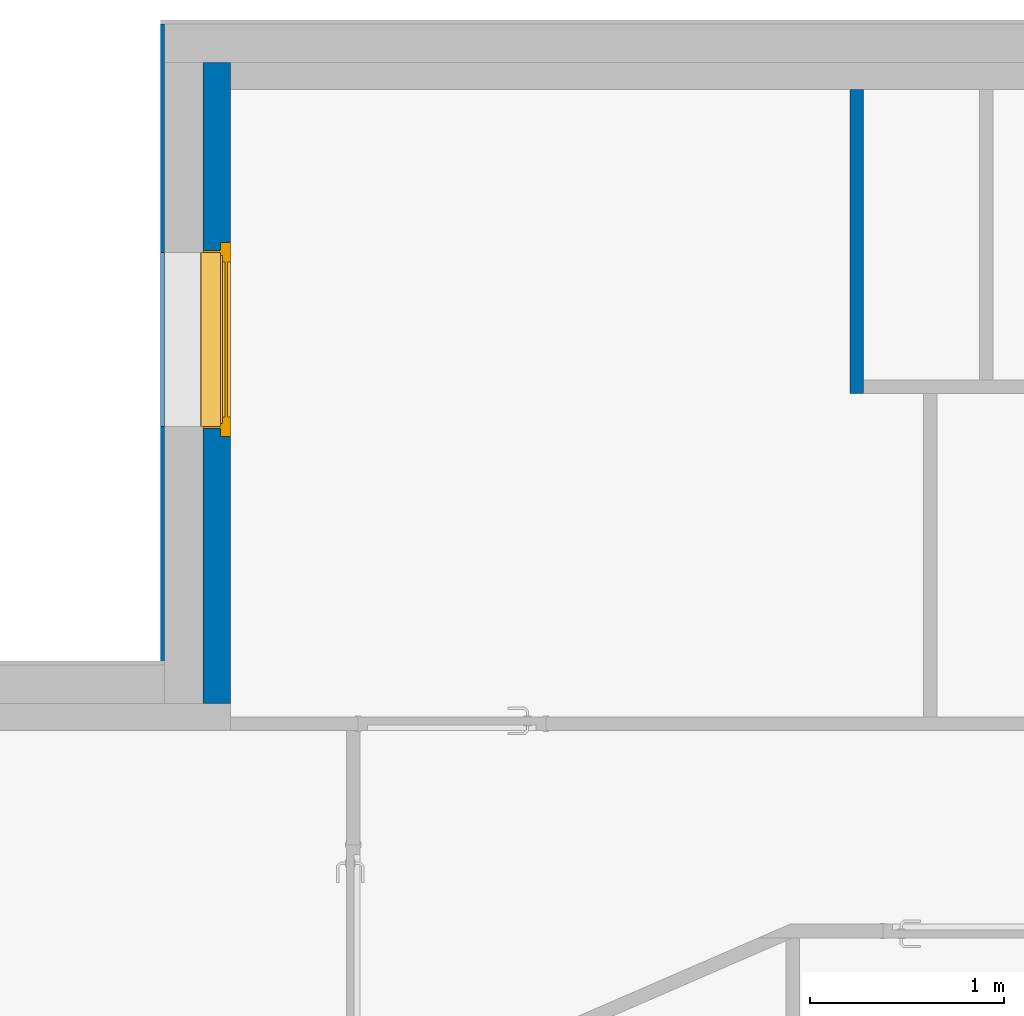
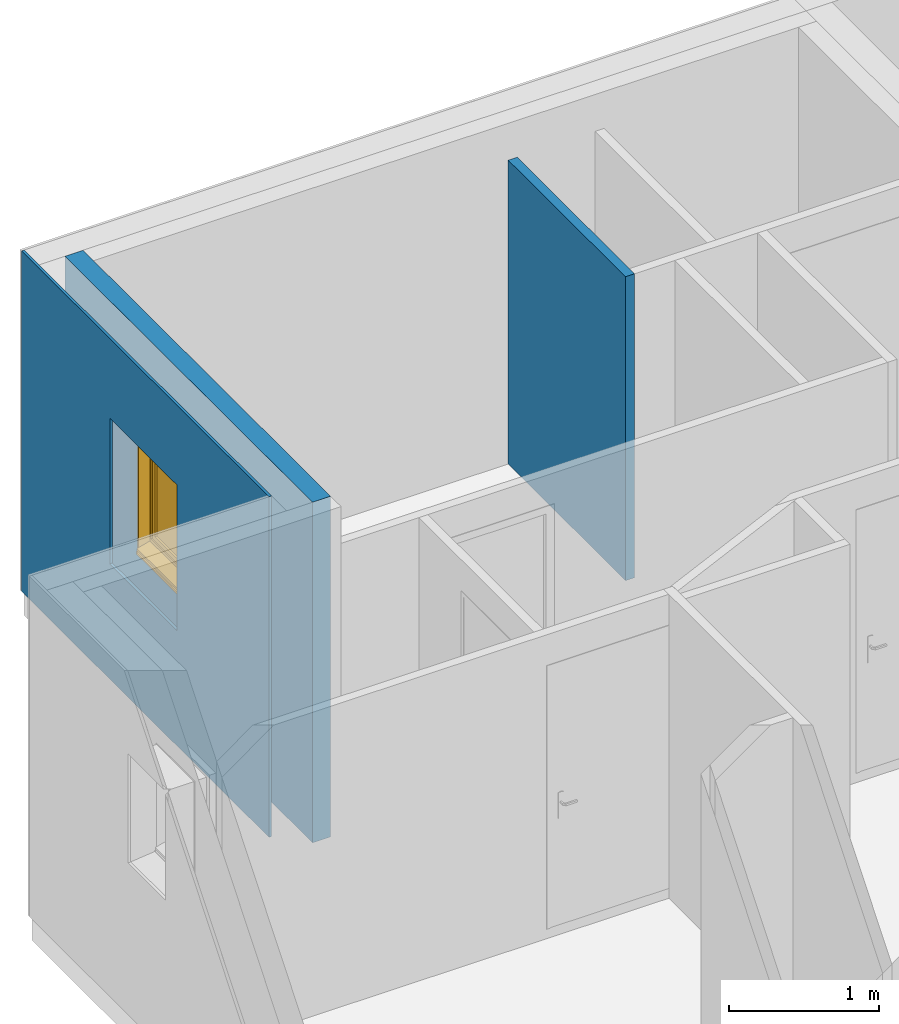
"""IFC2X3 building model written with IfcOpenShell, lengths in centimetres."""

from ifc_helpers import new_model, entity, si_unit, converted_unit, derived_unit, direction, frame, frame_2d, origin, place, context, subcontext, project, spatial, rectangle, extrude, faceted_brep, source, transform, mapped, material, material_list, layer, layer_set, layer_usage, type_object, type_shapes, element, fill, save


model = new_model("IFC2X3")

# Units and contexts
model_context = context("Model", 3, precision=0.001, world=origin(), true_north=direction((6.123031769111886e-17, 1.0)))
body_context = subcontext(model_context, "Body", "Model", "MODEL_VIEW")
ifc_project = project(units=[si_unit("LENGTHUNIT", "METRE", prefix="CENTI"), si_unit("AREAUNIT", "SQUARE_METRE"), si_unit("VOLUMEUNIT", "CUBIC_METRE"), converted_unit("PLANEANGLEUNIT", "DEGREE", entity("IfcRatioMeasure", 0.017453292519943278), si_unit("PLANEANGLEUNIT", "RADIAN"), dimensions=[0, 0, 0, 0, 0, 0, 0]), si_unit("MASSUNIT", "GRAM", prefix="KILO"), derived_unit("MASSDENSITYUNIT", [(si_unit("MASSUNIT", "GRAM", prefix="KILO"), 1), (si_unit("LENGTHUNIT", "METRE"), -3)]), derived_unit("MOMENTOFINERTIAUNIT", [(si_unit("LENGTHUNIT", "METRE"), 4)]), si_unit("TIMEUNIT", "SECOND"), si_unit("FREQUENCYUNIT", "HERTZ"), si_unit("THERMODYNAMICTEMPERATUREUNIT", "DEGREE_CELSIUS"), derived_unit("THERMALTRANSMITTANCEUNIT", [(si_unit("MASSUNIT", "GRAM", prefix="KILO"), 1), (si_unit("THERMODYNAMICTEMPERATUREUNIT", "KELVIN"), -1), (si_unit("TIMEUNIT", "SECOND"), -3)]), derived_unit("VOLUMETRICFLOWRATEUNIT", [(si_unit("LENGTHUNIT", "METRE"), 3), (si_unit("TIMEUNIT", "SECOND"), -1)]), derived_unit("MASSFLOWRATEUNIT", [(si_unit("MASSUNIT", "GRAM", prefix="KILO"), 1), (si_unit("TIMEUNIT", "SECOND"), -1)]), derived_unit("ROTATIONALFREQUENCYUNIT", [(si_unit("TIMEUNIT", "SECOND"), -1)]), si_unit("ELECTRICCURRENTUNIT", "AMPERE"), si_unit("ELECTRICVOLTAGEUNIT", "VOLT"), si_unit("POWERUNIT", "WATT"), si_unit("FORCEUNIT", "NEWTON", prefix="KILO"), si_unit("ILLUMINANCEUNIT", "LUX"), si_unit("LUMINOUSFLUXUNIT", "LUMEN"), si_unit("LUMINOUSINTENSITYUNIT", "CANDELA"), derived_unit("USERDEFINED", [(si_unit("MASSUNIT", "GRAM", prefix="KILO"), -1), (si_unit("LENGTHUNIT", "METRE"), -2), (si_unit("TIMEUNIT", "SECOND"), 3), (si_unit("LUMINOUSFLUXUNIT", "LUMEN"), 1)]), derived_unit("SOUNDPOWERUNIT", [(si_unit("MASSUNIT", "GRAM", prefix="KILO"), 1), (si_unit("LENGTHUNIT", "METRE"), 2), (si_unit("TIMEUNIT", "SECOND"), -3)]), derived_unit("SOUNDPRESSUREUNIT", [(si_unit("MASSUNIT", "GRAM", prefix="KILO"), 1), (si_unit("LENGTHUNIT", "METRE"), -1), (si_unit("TIMEUNIT", "SECOND"), -2)]), derived_unit("LINEARVELOCITYUNIT", [(si_unit("LENGTHUNIT", "METRE"), 1), (si_unit("TIMEUNIT", "SECOND"), -1)]), si_unit("PRESSUREUNIT", "PASCAL"), derived_unit("USERDEFINED", [(si_unit("LENGTHUNIT", "METRE"), -2), (si_unit("MASSUNIT", "GRAM", prefix="KILO"), 1), (si_unit("TIMEUNIT", "SECOND"), -2)]), derived_unit("LINEARFORCEUNIT", [(si_unit("MASSUNIT", "GRAM", prefix="KILO"), 1), (si_unit("LENGTHUNIT", "METRE"), 1), (si_unit("TIMEUNIT", "SECOND"), -2), (si_unit("LENGTHUNIT", "METRE"), -1)]), derived_unit("PLANARFORCEUNIT", [(si_unit("MASSUNIT", "GRAM", prefix="KILO"), 1), (si_unit("LENGTHUNIT", "METRE"), 1), (si_unit("TIMEUNIT", "SECOND"), -2), (si_unit("LENGTHUNIT", "METRE"), -2)])], contexts=[model_context])

# Site, building, storey
site_placement = place(None, origin())
site = spatial("IfcSite", under=ifc_project, at=site_placement, Name="Default", CompositionType="ELEMENT")
building_placement = place(site_placement, origin())
building = spatial("IfcBuilding", under=site, at=building_placement, CompositionType="ELEMENT")
storey_1_placement = place(building_placement, frame((0.0, 0.0, -8.0)))
storey_1 = spatial("IfcBuildingStorey", under=building, at=storey_1_placement, Name="-0.08_Dessus plancher", CompositionType="ELEMENT", Elevation=-8.000000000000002)

# Wall, opening
ifc_material_1 = material(Name="Maçonnerie - Enduit")
ifc_layer_1 = layer(ifc_material_1, 2.0)
ifc_layer_set_1 = layer_set([ifc_layer_1], Name="Mur de base:Enduit 2")
ifc_layer_usage_1 = layer_usage(ifc_layer_set_1, "AXIS2", "POSITIVE", -1.0)
wall_type_1 = type_object("IfcWallType", Name="Mur de base:Enduit 2", PredefinedType="STANDARD", material=ifc_layer_set_1)
wall_1_placement = place(storey_1_placement, frame((-1447.8253630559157, 931.6042960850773, 0.0), z_axis=(0.0, 0.0, 1.0), x_axis=(0.0, -1.0, 0.0)))
wall_1 = element("IfcWallStandardCase", 1, at=wall_1_placement, inside=storey_1, type_object=wall_type_1, material=ifc_layer_usage_1, Name="Mur de base:Enduit 2", ObjectType="Mur de base:Enduit 2", context=body_context, shape_type="SweptSolid", body=[
    extrude(rectangle(XDim=330.9999999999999, YDim=1.9999999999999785, at=frame_2d((165.49999999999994, 0.0), x_axis=(-1.0, 0.0))), origin(), (0.0, 0.0, 1.0), 278.00000000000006),
])
opening_1_placement = place(wall_1_placement, frame((213.0, -22.0, 91.77030941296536)))
element("IfcOpeningElement", 2, at=opening_1_placement, cuts=wall_1, Name="Mur de base:Enduit 2", ObjectType="Opening", context=body_context, shape_type="Brep", body=[
    faceted_brep([(-5.0, 45.0, 6.229690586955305), (-5.0, 43.0, 6.229690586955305), (-5.0, 43.0, 121.22969058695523), (-5.0, 0.0, 121.22969058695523), (-5.0, 0.0, 0.0), (-5.0, 45.0, 4.729690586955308), (-95.0, 100.0, 6.229690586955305), (-95.0, 57.0, 6.229690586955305), (-95.0, 57.0, 121.22969058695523), (-95.0, 100.0, 121.22969058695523), (-5.0, 100.0, 6.229690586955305), (-5.0, 57.0, 6.229690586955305), (0.0, 57.0, 6.229690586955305), (0.0, 52.0, 6.229690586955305), (-4.0, 52.0, 6.229690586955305), (-4.0, 43.0, 6.229690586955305), (-95.0, 45.0, 6.229690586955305), (-95.0, 43.0, 6.229690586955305), (-96.0, 43.0, 6.229690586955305), (-96.0, 52.0, 6.229690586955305), (-100.0, 52.0, 6.229690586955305), (-100.0, 57.0, 6.229690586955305), (-5.0, 100.0, 121.22969058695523), (-95.0, 43.0, 121.22969058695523), (-95.0, 0.0, 121.22969058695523), (-95.0, 0.0, 0.0), (-95.0, 45.0, 4.729690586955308), (0.0, 57.0, 126.2296905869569), (0.0, 52.0, 126.2296905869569), (-100.0, 52.0, 126.2296905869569), (-96.0, 52.0, 122.22969058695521), (-4.0, 52.0, 122.22969058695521), (-4.0, 43.0, 122.22969058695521), (-96.0, 43.0, 122.22969058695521), (-5.0, 57.0, 121.22969058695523), (-100.0, 57.0, 126.2296905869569)], [[[0, 1, 2, 3, 4, 5]], [[6, 7, 8, 9]], [[10, 11, 12, 13, 14, 15, 1, 0, 16, 17, 18, 19, 20, 21, 7, 6]], [[10, 6, 9, 22]], [[3, 2, 23, 24]], [[3, 24, 25, 4]], [[4, 25, 26, 5]], [[5, 26, 16, 0]], [[12, 27, 28, 13]], [[13, 28, 29, 20, 19, 30, 31, 14]], [[14, 31, 32, 15]], [[15, 32, 33, 18, 17, 23, 2, 1]], [[11, 34, 8, 7, 21, 35, 27, 12]], [[27, 35, 29, 28]], [[30, 33, 32, 31]], [[29, 35, 21, 20]], [[19, 18, 33, 30]], [[9, 8, 34, 22]], [[24, 23, 17, 16, 26, 25]], [[22, 34, 11, 10]]]),
])

ifc_material_2 = material(Name="Isolant rigide")
ifc_layer_2 = layer(ifc_material_2, 14.0)
ifc_layer_set_2 = layer_set([ifc_layer_2], Name="Mur de base:Doublage 14")
ifc_layer_usage_2 = layer_usage(ifc_layer_set_2, "AXIS2", "NEGATIVE", 7.0)
wall_type_2 = type_object("IfcWallType", Name="Mur de base:Doublage 14", PredefinedType="STANDARD", material=ifc_layer_set_2)
wall_2_placement = place(storey_1_placement, frame((-1419.8253630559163, 580.6042960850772, 0.0), z_axis=(0.0, 0.0, 1.0), x_axis=(0.0, 1.0, 0.0)))
wall_2 = element("IfcWallStandardCase", 3, at=wall_2_placement, inside=storey_1, type_object=wall_type_2, material=ifc_layer_usage_2, Name="Mur de base:Doublage 14", ObjectType="Mur de base:Doublage 14", context=body_context, shape_type="SweptSolid", body=[
    extrude(rectangle(XDim=331.0, YDim=14.000000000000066, at=frame_2d((165.5, -1.0835776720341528e-13), x_axis=(-1.0, 0.0))), origin(), (0.0, 0.0, 1.0), 278.00000000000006),
])
opening_2_placement = place(wall_2_placement, frame((138.0, 50.0, 91.77030941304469), z_axis=(0.0, 0.0, 1.0), x_axis=(0.0, -1.0, 0.0)))
opening_2 = element("IfcOpeningElement", 4, at=opening_2_placement, cuts=wall_2, Name="Mur de base:Doublage 14", ObjectType="Opening", context=body_context, shape_type="Brep", body=[
    faceted_brep([(45.0, 5.0, 6.2296905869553), (43.0, 5.0, 6.2296905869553), (43.0, 5.0, 121.22969058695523), (0.0, 5.0, 121.22969058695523), (0.0, 5.0, 0.0), (45.0, 5.0, 4.729690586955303), (100.0, 95.0, 6.2296905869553), (57.0, 95.0, 6.2296905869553), (57.0, 95.0, 121.22969058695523), (100.0, 95.0, 121.22969058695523), (100.0, 5.0, 6.2296905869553), (57.0, 5.0, 6.2296905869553), (57.0, 0.0, 6.2296905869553), (52.0, 0.0, 6.2296905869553), (52.0, 4.0, 6.2296905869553), (43.0, 4.0, 6.2296905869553), (45.0, 95.0, 6.2296905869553), (43.0, 95.0, 6.2296905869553), (43.0, 96.0, 6.2296905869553), (52.0, 96.0, 6.2296905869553), (52.0, 100.0, 6.2296905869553), (57.0, 100.0, 6.2296905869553), (100.0, 5.0, 121.22969058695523), (43.0, 95.0, 121.22969058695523), (0.0, 95.0, 121.22969058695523), (0.0, 95.0, 0.0), (45.0, 95.0, 4.729690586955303), (57.0, 0.0, 126.2296905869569), (52.0, 0.0, 126.2296905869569), (52.0, 100.0, 126.2296905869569), (52.0, 96.0, 122.22969058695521), (52.0, 4.0, 122.22969058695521), (43.0, 4.0, 122.22969058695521), (43.0, 96.0, 122.22969058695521), (57.0, 5.0, 121.22969058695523), (57.0, 100.0, 126.2296905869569)], [[[0, 1, 2, 3, 4, 5]], [[6, 7, 8, 9]], [[10, 11, 12, 13, 14, 15, 1, 0, 16, 17, 18, 19, 20, 21, 7, 6]], [[10, 6, 9, 22]], [[3, 2, 23, 24]], [[3, 24, 25, 4]], [[4, 25, 26, 5]], [[5, 26, 16, 0]], [[12, 27, 28, 13]], [[13, 28, 29, 20, 19, 30, 31, 14]], [[14, 31, 32, 15]], [[15, 32, 33, 18, 17, 23, 2, 1]], [[11, 34, 8, 7, 21, 35, 27, 12]], [[27, 35, 29, 28]], [[30, 33, 32, 31]], [[29, 35, 21, 20]], [[19, 18, 33, 30]], [[9, 8, 34, 22]], [[24, 23, 17, 16, 26, 25]], [[22, 34, 11, 10]]]),
])

# Storey
storey_2_placement = place(building_placement, origin())
storey_2 = spatial("IfcBuildingStorey", under=building, at=storey_2_placement, Name="1_Rez-de-chaussée", CompositionType="ELEMENT", Elevation=-7.93413063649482e-11)

# Window
ifc_material_3 = material(Name="Fenêtre - Poignée")
ifc_material_4 = material(Name="Fenêtre - Appui")
ifc_material_5 = material(Name="Fenêtre - Vitrage")
ifc_material_6 = material(Name="Fenêtre - Cadre")
ifc_material_list_1 = material_list([ifc_material_3, ifc_material_3, ifc_material_4, ifc_material_4, ifc_material_4, ifc_material_5, ifc_material_6, ifc_material_6, ifc_material_6])
ifc_material_list_2 = material_list([ifc_material_3, ifc_material_3, ifc_material_4, ifc_material_4, ifc_material_4, ifc_material_5, ifc_material_6, ifc_material_6, ifc_material_6])
window_style = type_object("IfcWindowStyle", Name="1 Vantail - Droit:0.90 m x 1.15 m", ConstructionType="NOTDEFINED", OperationType="NOTDEFINED", ParameterTakesPrecedence=False, Sizeable=False, material=ifc_material_list_2)
shared_shape = source(origin(), body_context, "Body", "Brep", [
    faceted_brep([(8.064600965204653, -57.600000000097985, 68.43308351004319), (8.203392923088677, -57.600000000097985, 68.29429155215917), (8.203392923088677, -57.600000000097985, 67.16292070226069), (8.066769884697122, -57.600000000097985, 67.02629766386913), (6.933230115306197, -57.600000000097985, 67.02629766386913), (6.796607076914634, -57.600000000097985, 67.16292070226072), (6.796607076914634, -57.600000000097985, 68.29429155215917), (6.935399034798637, -57.600000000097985, 68.43308351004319), (8.064600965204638, -58.891354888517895, 68.43308351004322), (8.203392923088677, -58.833865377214, 68.29429155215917), (8.203392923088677, -60.16460096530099, 66.9635559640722), (8.203392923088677, -60.16460096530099, 58.22969058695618), (8.203392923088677, -59.03323011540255, 58.22969058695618), (8.203392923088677, -59.033230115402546, 66.49492681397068), (8.203392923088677, -58.36523622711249, 67.16292070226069), (8.066769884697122, -58.308645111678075, 67.02629766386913), (6.933230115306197, -58.308645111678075, 67.02629766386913), (6.796607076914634, -58.3652362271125, 67.16292070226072), (6.796607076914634, -59.03323011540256, 66.49492681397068), (6.796607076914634, -59.03323011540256, 58.22969058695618), (6.796607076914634, -60.164600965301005, 58.22969058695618), (6.796607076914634, -60.164600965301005, 66.9635559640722), (6.796607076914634, -58.833865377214, 68.29429155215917), (6.935399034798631, -58.89135488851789, 68.43308351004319), (8.064600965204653, -60.30339292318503, 67.02104547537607), (8.066769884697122, -58.896607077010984, 66.43833569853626), (6.933230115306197, -58.89660707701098, 66.43833569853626), (6.935399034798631, -60.30339292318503, 67.02104547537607), (8.064600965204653, -60.30339292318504, 58.22969058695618), (6.935399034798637, -60.30339292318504, 58.22969058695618), (6.933230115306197, -58.896607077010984, 58.22969058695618), (8.066769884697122, -58.896607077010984, 58.22969058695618)], [[[0, 1, 2, 3, 4, 5, 6, 7]], [[1, 0, 8, 9]], [[2, 1, 9, 10, 11, 12, 13, 14]], [[3, 2, 14, 15]], [[4, 3, 15, 16]], [[5, 4, 16, 17]], [[6, 5, 17, 18, 19, 20, 21, 22]], [[7, 6, 22, 23]], [[0, 7, 23, 8]], [[9, 8, 24, 10]], [[15, 14, 13, 25]], [[16, 15, 25, 26]], [[17, 16, 26, 18]], [[23, 22, 21, 27]], [[8, 23, 27, 24]], [[28, 29, 20, 19, 30, 31, 12, 11]], [[10, 24, 28, 11]], [[25, 13, 12, 31]], [[26, 25, 31, 30]], [[18, 26, 30, 19]], [[27, 21, 20, 29]], [[24, 27, 29, 28]]]),
    faceted_brep([(8.200000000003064, -57.60000000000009, 70.22969058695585), (6.80000000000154, -57.60000000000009, 70.22969058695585), (6.300000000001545, -57.60000000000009, 69.72969058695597), (6.300000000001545, -57.60000000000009, 62.72969058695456), (6.8000000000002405, -57.60000000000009, 62.22969058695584), (8.200000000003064, -57.60000000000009, 62.22969058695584), (8.70000000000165, -57.60000000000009, 62.72969058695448), (8.70000000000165, -57.60000000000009, 69.72969058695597), (8.200000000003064, -57.0, 70.22969058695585), (8.70000000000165, -57.0, 69.72969058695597), (8.70000000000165, -57.0, 62.72969058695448), (8.200000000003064, -57.0, 62.22969058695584), (6.8000000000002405, -57.0, 62.22969058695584), (6.300000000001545, -57.0, 62.72969058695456), (6.300000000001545, -57.0, 69.72969058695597), (6.80000000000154, -57.0, 70.22969058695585)], [[[0, 1, 2, 3, 4, 5, 6, 7]], [[8, 9, 10, 11, 12, 13, 14, 15]], [[1, 0, 8, 15]], [[2, 1, 15, 14]], [[3, 2, 14, 13]], [[4, 3, 13, 12]], [[5, 4, 12, 11]], [[6, 5, 11, 10]], [[7, 6, 10, 9]], [[0, 7, 9, 8]]]),
    faceted_brep([(95.0, -41.49999999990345, 4.887346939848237), (95.0, -44.499999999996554, 5.202659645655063), (95.0, -44.499999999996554, 6.229690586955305), (95.0, -45.0, 6.229690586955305), (95.0, -45.0, 4.729690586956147), (95.0, -42.0, 4.4143778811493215), (95.0, -42.0, 3.384327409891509), (95.0, -41.49999999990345, 3.331775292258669), (5.0, -41.49999999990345, 4.887346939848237), (5.0, -41.49999999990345, 3.331775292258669), (5.0, -42.0, 3.384327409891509), (5.0, -42.0, 4.4143778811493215), (5.0, -45.0, 4.729690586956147), (5.0, -45.0, 6.229690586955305), (5.0, -44.49999999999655, 6.229690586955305), (5.0, -44.49999999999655, 5.202659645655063)], [[[0, 1, 2, 3, 4, 5, 6, 7]], [[8, 9, 10, 11, 12, 13, 14, 15]], [[1, 0, 8, 15]], [[2, 1, 15, 14]], [[3, 2, 14, 13]], [[4, 3, 13, 12]], [[5, 4, 12, 11]], [[6, 5, 11, 10]], [[7, 6, 10, 9]], [[0, 7, 9, 8]]]),
    faceted_brep([(5.0, -41.49999999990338, 5.029939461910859), (5.0, -41.49999999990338, 4.887346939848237), (5.0, -44.499999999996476, 5.202659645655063), (5.0, -44.499999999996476, 5.7054137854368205), (5.0, -41.85818861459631, 5.427748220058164), (5.0, -41.60274206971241, 5.2975917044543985), (5.500000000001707, -44.49999999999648, 5.7054137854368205), (5.500000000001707, -44.49999999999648, 5.202659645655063), (5.500000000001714, -41.49999999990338, 4.887346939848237), (5.500000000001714, -41.49999999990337, 5.029939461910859), (5.500000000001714, -41.60274206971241, 5.2975917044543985), (5.500000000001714, -41.85818861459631, 5.427748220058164)], [[[0, 1, 2, 3, 4, 5]], [[6, 7, 8, 9, 10, 11]], [[2, 1, 8, 7]], [[3, 2, 7, 6]], [[4, 3, 6, 11]], [[4, 11, 10, 5]], [[10, 9, 0, 5]], [[1, 0, 9, 8]]]),
    faceted_brep([(94.5000000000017, -41.49999999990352, 5.029939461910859), (94.5000000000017, -41.49999999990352, 4.887346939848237), (94.50000000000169, -44.499999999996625, 5.202659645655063), (94.50000000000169, -44.499999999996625, 5.7054137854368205), (94.5000000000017, -41.85818861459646, 5.427748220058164), (94.5000000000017, -41.60274206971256, 5.2975917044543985), (95.0, -44.499999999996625, 5.7054137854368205), (95.0, -44.499999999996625, 5.202659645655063), (95.0, -41.49999999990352, 4.887346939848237), (95.0, -41.499999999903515, 5.029939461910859), (95.0, -41.60274206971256, 5.2975917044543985), (95.0, -41.85818861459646, 5.427748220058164)], [[[0, 1, 2, 3, 4, 5]], [[6, 7, 8, 9, 10, 11]], [[2, 1, 8, 7]], [[3, 2, 7, 6]], [[4, 3, 6, 11]], [[4, 11, 10, 5]], [[10, 9, 0, 5]], [[1, 0, 9, 8]]]),
    faceted_brep([(10.0, -54.400000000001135, 16.229690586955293), (10.0, -54.400000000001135, 116.22969058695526), (90.0, -54.400000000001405, 116.22969058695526), (90.0, -54.400000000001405, 16.229690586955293), (10.0, -55.60000000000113, 16.229690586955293), (10.0, -55.60000000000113, 116.22969058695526), (90.0, -55.60000000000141, 116.22969058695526), (90.0, -55.60000000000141, 16.229690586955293)], [[[0, 1, 2, 3]], [[1, 0, 4, 5]], [[3, 2, 6, 7]], [[0, 3, 7, 4]], [[4, 7, 6, 5]], [[2, 1, 5, 6]]]),
    faceted_brep([(10.0, -53.0, 116.22969058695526), (10.0, -57.0, 116.22969058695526), (10.0, -57.0, 16.229690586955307), (10.0, -53.0, 16.22969058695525), (90.0, -57.0, 16.229690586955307), (90.0, -53.0, 16.229690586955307), (90.0, -57.0, 116.22969058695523), (95.0, -57.0, 11.229690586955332), (95.0, -57.0, 121.2296905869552), (5.0, -57.0, 121.22969058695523), (5.0, -57.0, 11.229690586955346), (90.0, -53.0, 116.22969058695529), (5.0, -53.0, 11.229690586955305), (5.0, -53.0, 121.22969058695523), (95.0, -53.0, 121.22969058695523), (95.0, -53.0, 11.229690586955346)], [[[0, 1, 2, 3]], [[3, 2, 4, 5]], [[2, 1, 6, 4], [7, 8, 9, 10]], [[5, 4, 6, 11]], [[5, 11, 0, 3], [12, 13, 14, 15]], [[9, 13, 12, 10]], [[10, 12, 15, 7]], [[7, 15, 14, 8]], [[11, 6, 1, 0]], [[8, 14, 13, 9]]], outer=[[True], [True], [False, True], [True], [False, True], [True], [True], [True], [True], [True]]),
    faceted_brep([(0.0, -57.0, 6.229690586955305), (0.0, -52.0, 6.229690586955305), (5.0, -52.0, 6.229690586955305), (5.0, -43.0, 6.229690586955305), (95.0, -43.0, 6.229690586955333), (95.0, -52.0, 6.229690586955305), (100.0, -52.0, 6.229690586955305), (100.0, -57.0, 6.229690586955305), (0.0, -57.0, 126.22969058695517), (0.0, -52.0, 126.22969058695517), (100.0, -52.0, 126.22969058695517), (95.0, -52.0, 10.167304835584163), (5.0, -52.0, 10.167304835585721), (6.500000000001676, -52.0, 119.72969058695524), (6.500000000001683, -52.0, 12.729690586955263), (93.50000000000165, -52.0, 12.729690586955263), (93.50000000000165, -52.0, 119.72969058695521), (5.0, -42.0, 7.48781291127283), (5.0, -42.0, 5.729690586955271), (5.0, -43.0, 5.729690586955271), (95.0, -43.0, 5.729690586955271), (95.0, -42.0, 5.729690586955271), (95.0, -42.0, 7.48781291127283), (100.0, -57.0, 126.22969058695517), (95.0, -57.0, 121.22969058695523), (95.0, -57.0, 11.229690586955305), (5.0, -57.0, 11.229690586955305), (5.0, -57.0, 121.22969058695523), (6.500000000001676, -53.0, 119.72969058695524), (6.500000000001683, -53.0, 12.729690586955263), (93.50000000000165, -53.0, 12.729690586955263), (93.50000000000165, -53.0, 119.72969058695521), (95.0, -53.0, 121.22969058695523), (5.0, -53.0, 121.22969058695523), (5.0, -53.0, 11.229690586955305), (95.0, -53.0, 11.229690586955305)], [[[0, 1, 2, 3, 4, 5, 6, 7]], [[1, 0, 8, 9]], [[1, 9, 10, 6, 5, 11, 12, 2], [13, 14, 15, 16]], [[12, 17, 18, 19, 3, 2]], [[3, 19, 20, 4]], [[4, 20, 21, 22, 11, 5]], [[6, 10, 23, 7]], [[0, 7, 23, 8], [24, 25, 26, 27]], [[13, 28, 29, 14]], [[29, 30, 15, 14]], [[31, 16, 15, 30]], [[17, 12, 11, 22]], [[32, 33, 34, 35], [28, 31, 30, 29]], [[34, 33, 27, 26]], [[26, 25, 35, 34]], [[24, 32, 35, 25]], [[18, 17, 22, 21]], [[19, 18, 21, 20]], [[13, 16, 31, 28]], [[33, 32, 24, 27]], [[10, 9, 8, 23]]]),
    faceted_brep([(5.0, -43.0, 6.229690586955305), (5.0, -52.0, 6.229690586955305), (4.0, -52.0, 6.229690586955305), (4.0, -43.0, 6.229690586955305), (5.0, -43.0, 121.22969058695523), (5.0, -52.0, 121.22969058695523), (95.0, -52.0, 121.22969058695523), (95.0, -52.0, 6.229690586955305), (96.0, -52.0, 6.229690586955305), (96.0, -52.0, 122.22969058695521), (4.0, -52.0, 122.22969058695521), (4.0, -43.0, 122.22969058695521), (96.0, -43.0, 122.22969058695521), (96.0, -43.0, 6.229690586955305), (95.0, -43.0, 6.229690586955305), (95.0, -43.0, 121.22969058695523)], [[[0, 1, 2, 3]], [[1, 0, 4, 5]], [[2, 1, 5, 6, 7, 8, 9, 10]], [[3, 2, 10, 11]], [[0, 3, 11, 12, 13, 14, 15, 4]], [[6, 15, 14, 7]], [[14, 13, 8, 7]], [[12, 9, 8, 13]], [[5, 4, 15, 6]], [[11, 10, 9, 12]]]),
])
type_shapes(window_style, [shared_shape])
window_placement = place(opening_2_placement, frame((0.0, 0.0, 0.0), z_axis=(0.0, 0.0, 1.0), x_axis=(0.0, 1.0, 0.0)))
window = element("IfcWindow", 5, at=window_placement, inside=storey_2, type_object=window_style, material=ifc_material_list_1, Name="1 Vantail - Droit:0.90 m x 1.15 m", ObjectType="1 Vantail - Droit:0.90 m x 1.15 m", OverallHeight=128.00000000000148, OverallWidth=100.00000000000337, context=body_context, shape_type="MappedRepresentation", body=[
    mapped(shared_shape, transform((0.0, 0.0, 0.0), scale=1.0)),
])

fill(opening_2, window)

# Wall
ifc_material_7 = material(Name="Mur par défaut")
ifc_layer_3 = layer(ifc_material_7, 7.0)
ifc_layer_set_3 = layer_set([ifc_layer_3], Name="Mur de base:Cloison 7cm")
ifc_layer_usage_3 = layer_usage(ifc_layer_set_3, "AXIS2", "NEGATIVE", 3.4999999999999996)
wall_type_3 = type_object("IfcWallType", Name="Mur de base:Cloison 7cm", PredefinedType="STANDARD", material=ifc_layer_set_3)
wall_3_placement = place(storey_1_placement, frame((-1089.325363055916, 897.6042960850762, 0.0), z_axis=(0.0, 0.0, 1.0), x_axis=(0.0, -1.0, 0.0)))
element("IfcWallStandardCase", 6, at=wall_3_placement, inside=storey_1, type_object=wall_type_3, material=ifc_layer_usage_3, Name="Mur de base:Cloison 7cm", ObjectType="Mur de base:Cloison 7cm", context=body_context, shape_type="SweptSolid", body=[
    extrude(rectangle(XDim=157.0000000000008, YDim=7.000000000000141, at=frame_2d((78.5000000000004, 1.9317880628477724e-14), x_axis=(-1.0, 0.0))), origin(), (0.0, 0.0, 1.0), 248.00000000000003),
])

save(model, "model.ifc")
